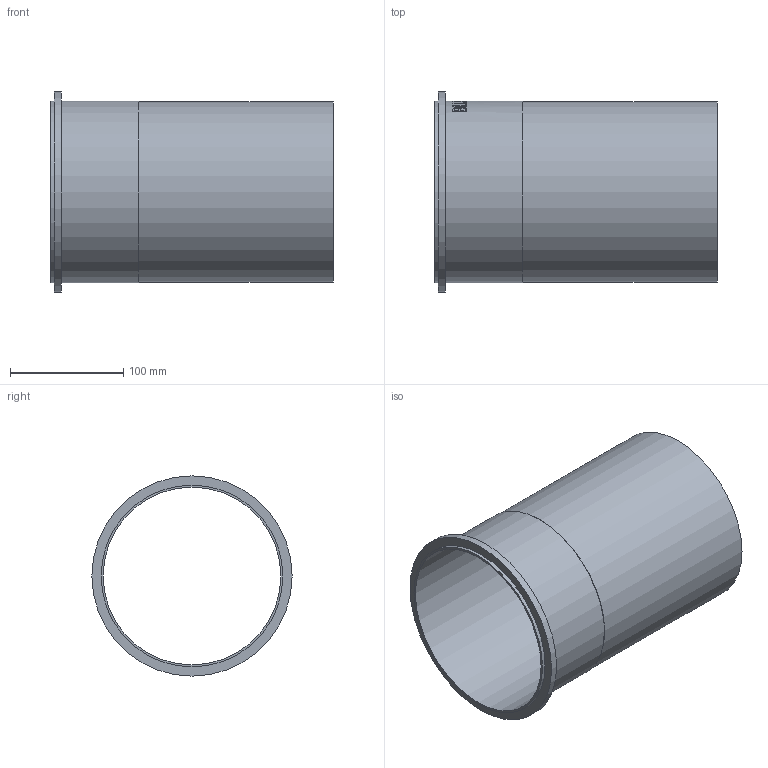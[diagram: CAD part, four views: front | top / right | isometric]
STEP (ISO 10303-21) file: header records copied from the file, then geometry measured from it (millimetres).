
FILE_DESCRIPTION((''),'2;1');
FILE_NAME('I:\WATTS\3D_CAD\3D_CAD_Models\Blucher_Drains\P_StraightPipe\WebsiteFiles\3D\STEP\P6-0.8-316.stp','2009-12-02T15:55:09',('menesek'),(''),'Autodesk Inventor 2010','Autodesk Inventor 2010','');
FILE_SCHEMA(('AUTOMOTIVE_DESIGN { 1 0 10303 214 1 1 1 1 }'));
Length unit declared in the file: inch
Products named in the file (1): P6-0.8-316
Bounding box: 250 x 177.04 x 177.04 mm (x, y, z)
Volume: 205276.6 mm3; surface area: 260051.8 mm2
Topology: 1 solids, 1 shells, 109 faces, 285 edges, 190 vertices
Faces by surface type: plane 59, bspline 34, cylinder 16
Full cylindrical faces by diameter (mm): 157.226 x1, 159.766 x1, 160.782 x2, 177.038 x1
Entity records: 13936 total; most frequent: CARTESIAN_POINT 11558, ORIENTED_EDGE 548, DIRECTION 356, EDGE_CURVE 274, VERTEX_POINT 186, EDGE_LOOP 128, AXIS2_PLACEMENT_3D 120, VECTOR 116
